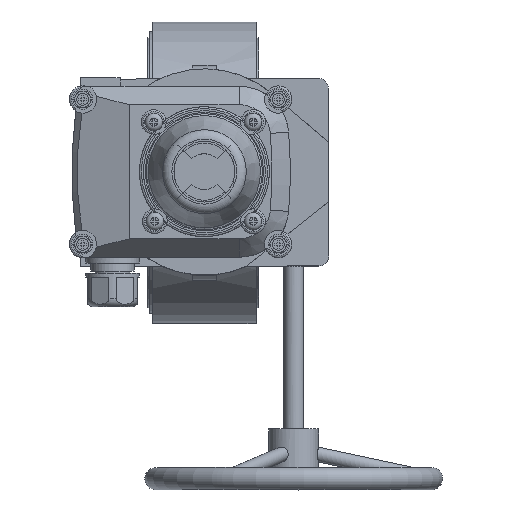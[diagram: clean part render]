
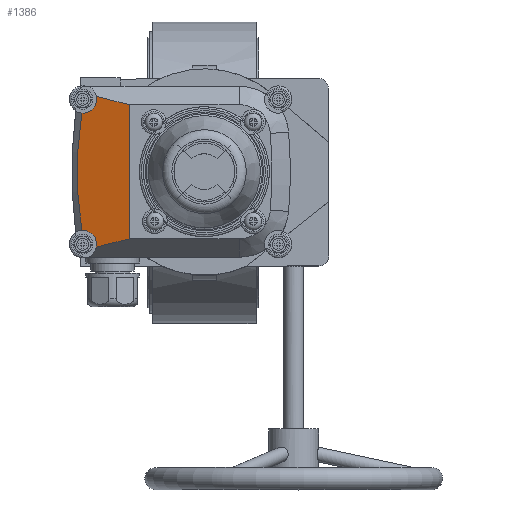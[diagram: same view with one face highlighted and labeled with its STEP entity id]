
A CAD part, top view. The second image highlights one B-rep face of the part: STEP entity #1386.
In plain terms, the highlighted planar face has unit normal (-0.287, 0, 0.958).
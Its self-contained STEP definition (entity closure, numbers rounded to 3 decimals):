
#1386=ADVANCED_FACE('',(#14297),#14299,.T.);
#14297=FACE_BOUND('',#14298,.T.);
#14298=EDGE_LOOP('',(#25086,#25087,#25088,#25089,#25090,#25091));
#14299=PLANE('',#14300);
#14300=AXIS2_PLACEMENT_3D('',#14301,#14302,#14303);
#14301=CARTESIAN_POINT('',(1503.218,4327.051,278.383));
#14302=DIRECTION('',(-0.287,0.,0.958));
#14303=DIRECTION('',(0.958,0.,0.287));
#25086=ORIENTED_EDGE('',*,*,#33112,.T.);
#25087=ORIENTED_EDGE('',*,*,#33111,.T.);
#25088=ORIENTED_EDGE('',*,*,#33188,.T.);
#25089=ORIENTED_EDGE('',*,*,#33452,.F.);
#25090=ORIENTED_EDGE('',*,*,#33190,.T.);
#25091=ORIENTED_EDGE('',*,*,#33453,.T.);
#33111=EDGE_CURVE('',#37648,#37653,#37655,.F.);
#33112=EDGE_CURVE('',#37656,#37648,#37657,.T.);
#33188=EDGE_CURVE('',#37653,#37791,#37793,.F.);
#33190=EDGE_CURVE('',#37797,#37794,#37798,.F.);
#33452=EDGE_CURVE('',#37797,#37791,#38255,.T.);
#33453=EDGE_CURVE('',#37794,#37656,#38256,.F.);
#37648=VERTEX_POINT('',#46659);
#37653=VERTEX_POINT('',#46685);
#37655=(BOUNDED_CURVE()B_SPLINE_CURVE(3,
(#46690,#46691,#46692,#46693),
.UNSPECIFIED.,.F.,.F.)B_SPLINE_CURVE_WITH_KNOTS((4,4),
(0.,1.),
.UNSPECIFIED.)CURVE()GEOMETRIC_REPRESENTATION_ITEM()RATIONAL_B_SPLINE_CURVE((1.,
0.734,0.734,1.))REPRESENTATION_ITEM(''));
#37656=VERTEX_POINT('',#46694);
#37657=B_SPLINE_CURVE_WITH_KNOTS('',3,
(#46695,#46696,#46697,#46698,#46699,#46700,#46701,#46702,#46703,#46704,#46705,#46706,
#46707,#46708,#46709,#46710,#46711,#46712,#46713,#46714,#46715,#46716,#46717,#46718,
#46719,#46720,#46721,#46722),
.UNSPECIFIED.,.F.,.F.,
(4,1,1,1,1,1,1,1,1,1,1,1,1,1,1,1,1,1,1,1,1,1,1,1,1,4),
(0.,0.051,0.101,0.151,0.201,0.25,
0.298,0.345,0.391,0.437,0.482,
0.5,0.525,0.567,0.609,0.648,
0.687,0.725,0.761,0.797,0.833,
0.867,0.901,0.934,0.967,1.),
.UNSPECIFIED.);
#37791=VERTEX_POINT('',#47422);
#37793=LINE('',#47426,#47427);
#37794=VERTEX_POINT('',#47429);
#37797=VERTEX_POINT('',#47435);
#37798=LINE('',#47436,#47437);
#38255=LINE('',#49633,#49634);
#38256=(BOUNDED_CURVE()B_SPLINE_CURVE(3,
(#49636,#49637,#49638,#49639),
.UNSPECIFIED.,.F.,.F.)B_SPLINE_CURVE_WITH_KNOTS((4,4),
(0.,1.),
.UNSPECIFIED.)CURVE()GEOMETRIC_REPRESENTATION_ITEM()RATIONAL_B_SPLINE_CURVE((1.,
0.734,0.734,1.))REPRESENTATION_ITEM(''));
#46659=CARTESIAN_POINT('',(1475.948,4237.534,270.202));
#46685=CARTESIAN_POINT('',(1483.297,4229.106,272.407));
#46690=CARTESIAN_POINT('',(1483.297,4229.106,272.407));
#46691=CARTESIAN_POINT('',(1484.345,4234.071,272.721));
#46692=CARTESIAN_POINT('',(1481.01,4237.896,271.721));
#46693=CARTESIAN_POINT('',(1475.948,4237.534,270.202));
#46694=CARTESIAN_POINT('',(1475.948,4296.569,270.202));
#46695=CARTESIAN_POINT('',(1475.948,4296.569,270.202));
#46696=CARTESIAN_POINT('',(1475.788,4295.579,270.154));
#46697=CARTESIAN_POINT('',(1475.486,4293.603,270.064));
#46698=CARTESIAN_POINT('',(1475.081,4290.641,269.942));
#46699=CARTESIAN_POINT('',(1474.728,4287.699,269.836));
#46700=CARTESIAN_POINT('',(1474.423,4284.779,269.745));
#46701=CARTESIAN_POINT('',(1474.169,4281.896,269.669));
#46702=CARTESIAN_POINT('',(1473.963,4279.051,269.607));
#46703=CARTESIAN_POINT('',(1473.803,4276.259,269.559));
#46704=CARTESIAN_POINT('',(1473.686,4273.506,269.524));
#46705=CARTESIAN_POINT('',(1473.612,4270.804,269.501));
#46706=CARTESIAN_POINT('',(1473.584,4268.654,269.493));
#46707=CARTESIAN_POINT('',(1473.579,4266.91,269.492));
#46708=CARTESIAN_POINT('',(1473.586,4265.218,269.494));
#46709=CARTESIAN_POINT('',(1473.618,4263.069,269.503));
#46710=CARTESIAN_POINT('',(1473.686,4260.638,269.524));
#46711=CARTESIAN_POINT('',(1473.784,4258.274,269.553));
#46712=CARTESIAN_POINT('',(1473.907,4255.99,269.59));
#46713=CARTESIAN_POINT('',(1474.054,4253.762,269.634));
#46714=CARTESIAN_POINT('',(1474.223,4251.588,269.685));
#46715=CARTESIAN_POINT('',(1474.414,4249.457,269.742));
#46716=CARTESIAN_POINT('',(1474.624,4247.382,269.805));
#46717=CARTESIAN_POINT('',(1474.853,4245.347,269.874));
#46718=CARTESIAN_POINT('',(1475.1,4243.354,269.948));
#46719=CARTESIAN_POINT('',(1475.364,4241.389,270.027));
#46720=CARTESIAN_POINT('',(1475.645,4239.453,270.111));
#46721=CARTESIAN_POINT('',(1475.845,4238.171,270.171));
#46722=CARTESIAN_POINT('',(1475.948,4237.534,270.202));
#47422=CARTESIAN_POINT('',(1499.884,4233.281,277.383));
#47426=CARTESIAN_POINT('',(1499.884,4233.281,277.383));
#47427=VECTOR('',#47428,1.);
#47428=DIRECTION('',(-0.931,-0.234,-0.279));
#47429=CARTESIAN_POINT('',(1483.297,4304.997,272.407));
#47435=CARTESIAN_POINT('',(1499.884,4300.821,277.383));
#47436=CARTESIAN_POINT('',(1483.297,4304.997,272.407));
#47437=VECTOR('',#47438,1.);
#47438=DIRECTION('',(0.931,-0.234,0.279));
#49633=CARTESIAN_POINT('',(1499.884,4300.821,277.383));
#49634=VECTOR('',#49635,1.);
#49635=DIRECTION('',(0.,-1.,0.));
#49636=CARTESIAN_POINT('',(1475.948,4296.569,270.202));
#49637=CARTESIAN_POINT('',(1481.01,4296.207,271.721));
#49638=CARTESIAN_POINT('',(1484.345,4300.032,272.721));
#49639=CARTESIAN_POINT('',(1483.297,4304.997,272.407));
